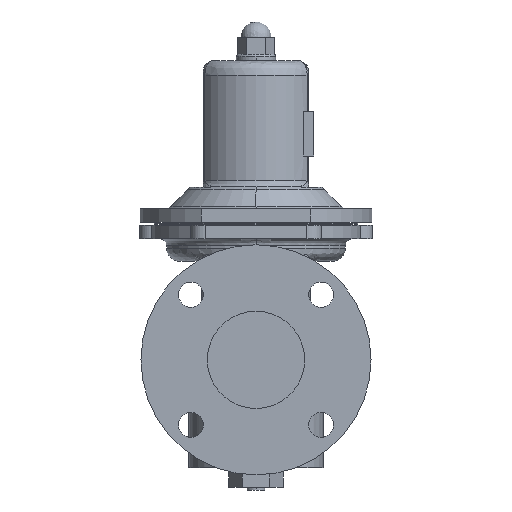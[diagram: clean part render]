
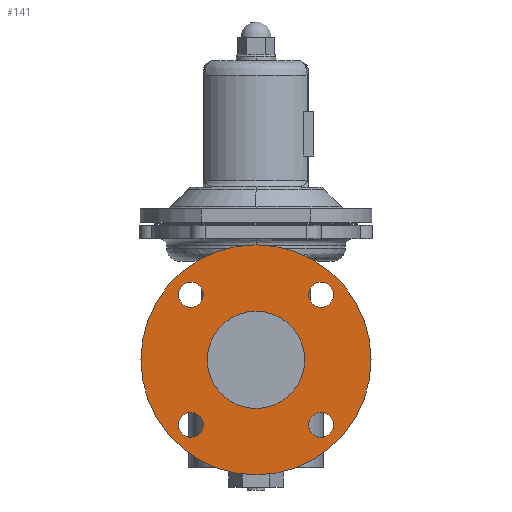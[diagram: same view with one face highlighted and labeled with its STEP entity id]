
A CAD part, left-side view. The second image highlights one B-rep face of the part: STEP entity #141.
In plain terms, the highlighted planar face has unit normal (-1, 0, 0).
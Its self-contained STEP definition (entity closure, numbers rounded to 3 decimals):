
#141=ADVANCED_FACE('',(#1010,#1011,#1012,#1013,#1014,#1015),#1009,.F.);
#1009=PLANE('',#3424);
#1010=FACE_OUTER_BOUND('',#3425,.T.);
#1011=FACE_BOUND('',#3426,.T.);
#1012=FACE_BOUND('',#3427,.T.);
#1013=FACE_BOUND('',#3428,.T.);
#1014=FACE_BOUND('',#3429,.T.);
#1015=FACE_BOUND('',#3430,.T.);
#3421=CARTESIAN_POINT('',(-164.,-161.554,185.));
#3422=DIRECTION('',(1.,0.,0.));
#3423=DIRECTION('',(0.,0.,-1.));
#3424=AXIS2_PLACEMENT_3D('',#3421,#3422,#3423);
#3425=EDGE_LOOP('',(#7288,#7289));
#3426=EDGE_LOOP('',(#7290,#7291));
#3427=EDGE_LOOP('',(#7292,#7293));
#3428=EDGE_LOOP('',(#7294,#7295));
#3429=EDGE_LOOP('',(#7296,#7297));
#3430=EDGE_LOOP('',(#7298,#7299));
#7288=ORIENTED_EDGE('',*,*,#8554,.T.);
#7289=ORIENTED_EDGE('',*,*,#8555,.T.);
#7290=ORIENTED_EDGE('',*,*,#8556,.F.);
#7291=ORIENTED_EDGE('',*,*,#8557,.F.);
#7292=ORIENTED_EDGE('',*,*,#8558,.F.);
#7293=ORIENTED_EDGE('',*,*,#8559,.F.);
#7294=ORIENTED_EDGE('',*,*,#8560,.F.);
#7295=ORIENTED_EDGE('',*,*,#8561,.F.);
#7296=ORIENTED_EDGE('',*,*,#8562,.F.);
#7297=ORIENTED_EDGE('',*,*,#8563,.F.);
#7298=ORIENTED_EDGE('',*,*,#8564,.F.);
#7299=ORIENTED_EDGE('',*,*,#8565,.F.);
#8554=EDGE_CURVE('',#10895,#10896,#10897,.T.);
#8555=EDGE_CURVE('',#10896,#10895,#10903,.T.);
#8556=EDGE_CURVE('',#10909,#10910,#10911,.T.);
#8557=EDGE_CURVE('',#10910,#10909,#10917,.T.);
#8558=EDGE_CURVE('',#10923,#10924,#10925,.T.);
#8559=EDGE_CURVE('',#10924,#10923,#10931,.T.);
#8560=EDGE_CURVE('',#10937,#10938,#10939,.T.);
#8561=EDGE_CURVE('',#10938,#10937,#10945,.T.);
#8562=EDGE_CURVE('',#10951,#10952,#10953,.T.);
#8563=EDGE_CURVE('',#10952,#10951,#10959,.T.);
#8564=EDGE_CURVE('',#10965,#10966,#10967,.T.);
#8565=EDGE_CURVE('',#10966,#10965,#10973,.T.);
#10895=VERTEX_POINT('',#15015);
#10896=VERTEX_POINT('',#15016);
#10897=CIRCLE('',#15020,87.5);
#10903=CIRCLE('',#15024,87.5);
#10909=VERTEX_POINT('',#15025);
#10910=VERTEX_POINT('',#15026);
#10911=CIRCLE('',#15030,9.5);
#10917=CIRCLE('',#15034,9.5);
#10923=VERTEX_POINT('',#15035);
#10924=VERTEX_POINT('',#15036);
#10925=CIRCLE('',#15040,9.5);
#10931=CIRCLE('',#15044,9.5);
#10937=VERTEX_POINT('',#15045);
#10938=VERTEX_POINT('',#15046);
#10939=CIRCLE('',#15050,9.5);
#10945=CIRCLE('',#15054,9.5);
#10951=VERTEX_POINT('',#15055);
#10952=VERTEX_POINT('',#15056);
#10953=CIRCLE('',#15060,9.5);
#10959=CIRCLE('',#15064,9.5);
#10965=VERTEX_POINT('',#15065);
#10966=VERTEX_POINT('',#15066);
#10967=CIRCLE('',#15070,37.);
#10973=CIRCLE('',#15074,37.);
#15015=CARTESIAN_POINT('',(-164.,0.,-87.5));
#15016=CARTESIAN_POINT('',(-164.,0.,87.5));
#15017=CARTESIAN_POINT('',(-164.,0.,0.));
#15018=DIRECTION('',(-1.,0.,0.));
#15019=DIRECTION('',(0.,0.,-1.));
#15020=AXIS2_PLACEMENT_3D('',#15017,#15018,#15019);
#15021=CARTESIAN_POINT('',(-164.,0.,0.));
#15022=DIRECTION('',(-1.,0.,0.));
#15023=DIRECTION('',(0.,0.,-1.));
#15024=AXIS2_PLACEMENT_3D('',#15021,#15022,#15023);
#15025=CARTESIAN_POINT('',(-164.,-49.497,-58.997));
#15026=CARTESIAN_POINT('',(-164.,-49.497,-39.997));
#15027=CARTESIAN_POINT('',(-164.,-49.497,-49.497));
#15028=DIRECTION('',(-1.,0.,0.));
#15029=DIRECTION('',(0.,0.,1.));
#15030=AXIS2_PLACEMENT_3D('',#15027,#15028,#15029);
#15031=CARTESIAN_POINT('',(-164.,-49.497,-49.497));
#15032=DIRECTION('',(-1.,0.,0.));
#15033=DIRECTION('',(0.,0.,1.));
#15034=AXIS2_PLACEMENT_3D('',#15031,#15032,#15033);
#15035=CARTESIAN_POINT('',(-164.,-49.497,39.997));
#15036=CARTESIAN_POINT('',(-164.,-49.497,58.997));
#15037=CARTESIAN_POINT('',(-164.,-49.497,49.497));
#15038=DIRECTION('',(-1.,0.,0.));
#15039=DIRECTION('',(0.,0.,1.));
#15040=AXIS2_PLACEMENT_3D('',#15037,#15038,#15039);
#15041=CARTESIAN_POINT('',(-164.,-49.497,49.497));
#15042=DIRECTION('',(-1.,0.,0.));
#15043=DIRECTION('',(0.,0.,1.));
#15044=AXIS2_PLACEMENT_3D('',#15041,#15042,#15043);
#15045=CARTESIAN_POINT('',(-164.,49.497,39.997));
#15046=CARTESIAN_POINT('',(-164.,49.497,58.997));
#15047=CARTESIAN_POINT('',(-164.,49.497,49.497));
#15048=DIRECTION('',(-1.,0.,0.));
#15049=DIRECTION('',(0.,0.,1.));
#15050=AXIS2_PLACEMENT_3D('',#15047,#15048,#15049);
#15051=CARTESIAN_POINT('',(-164.,49.497,49.497));
#15052=DIRECTION('',(-1.,0.,0.));
#15053=DIRECTION('',(0.,0.,1.));
#15054=AXIS2_PLACEMENT_3D('',#15051,#15052,#15053);
#15055=CARTESIAN_POINT('',(-164.,49.497,-58.997));
#15056=CARTESIAN_POINT('',(-164.,49.497,-39.997));
#15057=CARTESIAN_POINT('',(-164.,49.497,-49.497));
#15058=DIRECTION('',(-1.,0.,0.));
#15059=DIRECTION('',(0.,0.,1.));
#15060=AXIS2_PLACEMENT_3D('',#15057,#15058,#15059);
#15061=CARTESIAN_POINT('',(-164.,49.497,-49.497));
#15062=DIRECTION('',(-1.,0.,0.));
#15063=DIRECTION('',(0.,0.,1.));
#15064=AXIS2_PLACEMENT_3D('',#15061,#15062,#15063);
#15065=CARTESIAN_POINT('',(-164.,0.,-37.));
#15066=CARTESIAN_POINT('',(-164.,0.,37.));
#15067=CARTESIAN_POINT('',(-164.,0.,0.));
#15068=DIRECTION('',(-1.,0.,0.));
#15069=DIRECTION('',(0.,0.,1.));
#15070=AXIS2_PLACEMENT_3D('',#15067,#15068,#15069);
#15071=CARTESIAN_POINT('',(-164.,0.,0.));
#15072=DIRECTION('',(-1.,0.,0.));
#15073=DIRECTION('',(0.,0.,1.));
#15074=AXIS2_PLACEMENT_3D('',#15071,#15072,#15073);
